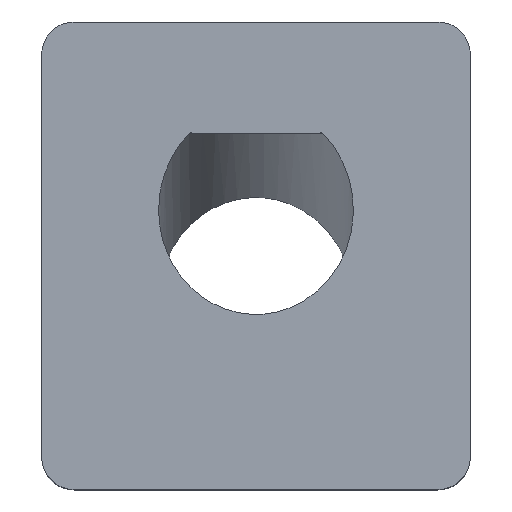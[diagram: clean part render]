
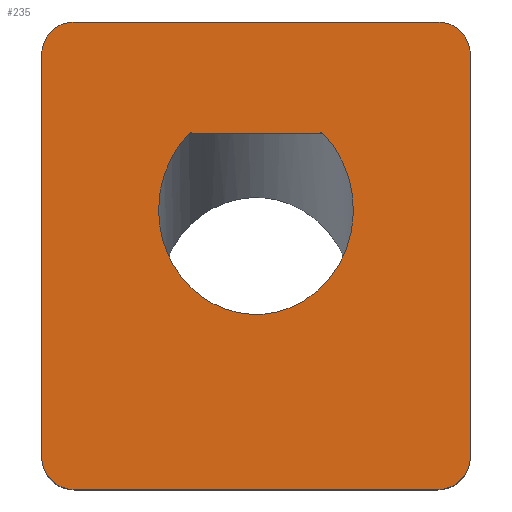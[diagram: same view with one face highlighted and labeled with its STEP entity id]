
A CAD part, top view. The second image highlights one B-rep face of the part: STEP entity #235.
In plain terms, the highlighted planar face has unit normal (0, 0, 1).
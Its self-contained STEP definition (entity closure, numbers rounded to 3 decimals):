
#15=FACE_BOUND('',#44,.T.);
#19=ELLIPSE('',#265,0.806,0.75);
#20=ELLIPSE('',#266,0.806,0.75);
#30=FACE_OUTER_BOUND('',#43,.T.);
#43=EDGE_LOOP('',(#173,#174,#175,#176,#177,#178,#179,#180));
#44=EDGE_LOOP('',(#181,#182,#183));
#57=CIRCLE('',#269,0.25);
#58=CIRCLE('',#271,0.25);
#59=CIRCLE('',#272,0.25);
#60=CIRCLE('',#273,0.25);
#64=LINE('',#364,#83);
#69=LINE('',#390,#88);
#70=LINE('',#394,#89);
#71=LINE('',#398,#90);
#72=LINE('',#401,#91);
#83=VECTOR('',#289,10.);
#88=VECTOR('',#318,10.);
#89=VECTOR('',#321,10.);
#90=VECTOR('',#324,10.);
#91=VECTOR('',#327,10.);
#102=VERTEX_POINT('',#362);
#103=VERTEX_POINT('',#363);
#107=VERTEX_POINT('',#375);
#108=VERTEX_POINT('',#380);
#111=VERTEX_POINT('',#385);
#112=VERTEX_POINT('',#389);
#113=VERTEX_POINT('',#391);
#114=VERTEX_POINT('',#393);
#115=VERTEX_POINT('',#395);
#116=VERTEX_POINT('',#397);
#117=VERTEX_POINT('',#399);
#124=EDGE_CURVE('',#102,#103,#64,.T.);
#131=EDGE_CURVE('',#103,#107,#19,.T.);
#132=EDGE_CURVE('',#107,#102,#20,.T.);
#136=EDGE_CURVE('',#108,#111,#57,.T.);
#137=EDGE_CURVE('',#111,#112,#69,.T.);
#138=EDGE_CURVE('',#112,#113,#58,.T.);
#139=EDGE_CURVE('',#113,#114,#70,.T.);
#140=EDGE_CURVE('',#114,#115,#59,.T.);
#141=EDGE_CURVE('',#115,#116,#71,.T.);
#142=EDGE_CURVE('',#116,#117,#60,.T.);
#143=EDGE_CURVE('',#117,#108,#72,.T.);
#173=ORIENTED_EDGE('',*,*,#137,.T.);
#174=ORIENTED_EDGE('',*,*,#138,.T.);
#175=ORIENTED_EDGE('',*,*,#139,.T.);
#176=ORIENTED_EDGE('',*,*,#140,.T.);
#177=ORIENTED_EDGE('',*,*,#141,.T.);
#178=ORIENTED_EDGE('',*,*,#142,.T.);
#179=ORIENTED_EDGE('',*,*,#143,.T.);
#180=ORIENTED_EDGE('',*,*,#136,.T.);
#181=ORIENTED_EDGE('',*,*,#131,.T.);
#182=ORIENTED_EDGE('',*,*,#132,.T.);
#183=ORIENTED_EDGE('',*,*,#124,.T.);
#225=PLANE('',#270);
#235=ADVANCED_FACE('',(#30,#15),#225,.T.);
#265=AXIS2_PLACEMENT_3D('',#377,#304,#305);
#266=AXIS2_PLACEMENT_3D('',#378,#306,#307);
#269=AXIS2_PLACEMENT_3D('',#387,#314,#315);
#270=AXIS2_PLACEMENT_3D('',#388,#316,#317);
#271=AXIS2_PLACEMENT_3D('',#392,#319,#320);
#272=AXIS2_PLACEMENT_3D('',#396,#322,#323);
#273=AXIS2_PLACEMENT_3D('',#400,#325,#326);
#289=DIRECTION('',(1.,0.,0.));
#304=DIRECTION('center_axis',(0.,0.,-1.));
#305=DIRECTION('ref_axis',(0.,1.,0.));
#306=DIRECTION('center_axis',(0.,0.,-1.));
#307=DIRECTION('ref_axis',(0.,1.,0.));
#314=DIRECTION('center_axis',(0.,0.,1.));
#315=DIRECTION('ref_axis',(1.,0.,0.));
#316=DIRECTION('center_axis',(0.,0.,1.));
#317=DIRECTION('ref_axis',(1.,0.,0.));
#318=DIRECTION('',(-1.,0.,0.));
#319=DIRECTION('center_axis',(0.,0.,1.));
#320=DIRECTION('ref_axis',(1.,0.,0.));
#321=DIRECTION('',(0.,-1.,0.));
#322=DIRECTION('center_axis',(0.,0.,1.));
#323=DIRECTION('ref_axis',(1.,0.,0.));
#324=DIRECTION('',(1.,0.,0.));
#325=DIRECTION('center_axis',(0.,0.,1.));
#326=DIRECTION('ref_axis',(1.,0.,0.));
#327=DIRECTION('',(0.,1.,0.));
#362=CARTESIAN_POINT('',(-0.515,-13.414,-2.251));
#363=CARTESIAN_POINT('',(0.515,-13.414,-2.251));
#364=CARTESIAN_POINT('',(0.,-13.414,-2.251));
#375=CARTESIAN_POINT('',(-0.75,-14.,-2.251));
#377=CARTESIAN_POINT('Origin',(0.,-14.,-2.251));
#378=CARTESIAN_POINT('Origin',(0.,-14.,-2.251));
#380=CARTESIAN_POINT('',(1.65,-12.805,-2.251));
#385=CARTESIAN_POINT('',(1.4,-12.555,-2.251));
#387=CARTESIAN_POINT('Origin',(1.4,-12.805,-2.251));
#388=CARTESIAN_POINT('Origin',(0.,-14.355,-2.251));
#389=CARTESIAN_POINT('',(-1.4,-12.555,-2.251));
#390=CARTESIAN_POINT('',(0.,-12.555,-2.251));
#391=CARTESIAN_POINT('',(-1.65,-12.805,-2.251));
#392=CARTESIAN_POINT('Origin',(-1.4,-12.805,-2.251));
#393=CARTESIAN_POINT('',(-1.65,-15.905,-2.251));
#394=CARTESIAN_POINT('',(-1.65,-14.355,-2.251));
#395=CARTESIAN_POINT('',(-1.4,-16.155,-2.251));
#396=CARTESIAN_POINT('Origin',(-1.4,-15.905,-2.251));
#397=CARTESIAN_POINT('',(1.4,-16.155,-2.251));
#398=CARTESIAN_POINT('',(0.,-16.155,-2.251));
#399=CARTESIAN_POINT('',(1.65,-15.905,-2.251));
#400=CARTESIAN_POINT('Origin',(1.4,-15.905,-2.251));
#401=CARTESIAN_POINT('',(1.65,-14.355,-2.251));
